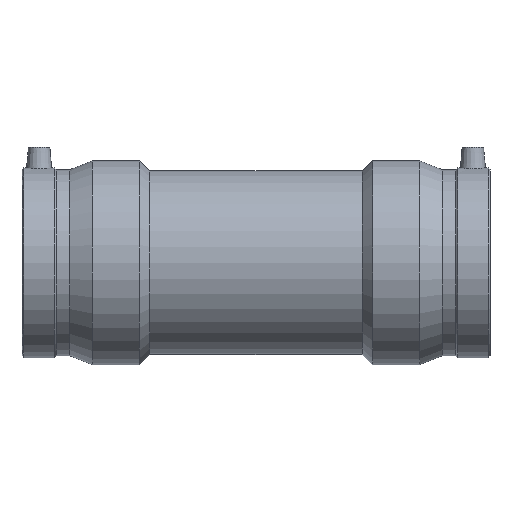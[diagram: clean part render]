
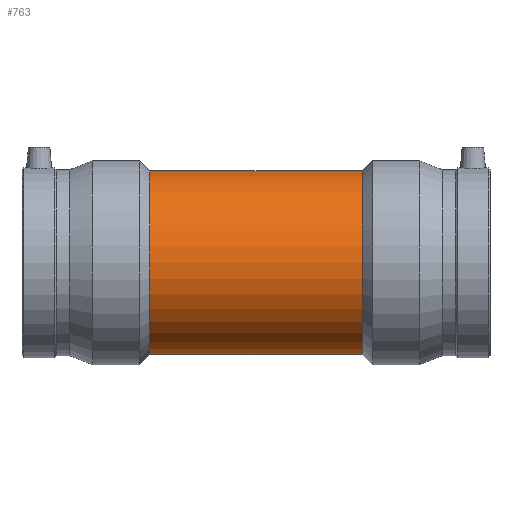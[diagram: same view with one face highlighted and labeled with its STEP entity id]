
A CAD part, top view. The second image highlights one B-rep face of the part: STEP entity #763.
In plain terms, the highlighted cylindrical face has radius 64.35 mm (diameter 128.7 mm), a full revolution.
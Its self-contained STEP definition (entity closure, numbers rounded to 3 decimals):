
#31=B_SPLINE_CURVE_WITH_KNOTS('',3,(#1275,#1276,#1277,#1278,#1279,#1280,
#1281,#1282,#1283,#1284,#1285,#1286,#1287,#1288,#1289,#1290,#1291,#1292),
 .UNSPECIFIED.,.F.,.F.,(4,2,2,2,2,2,2,2,4),(0.,0.769,1.538,
2.307,3.076,3.84,4.603,5.367,
6.13),.UNSPECIFIED.);
#32=B_SPLINE_CURVE_WITH_KNOTS('',3,(#1293,#1294,#1295,#1296,#1297,#1298,
#1299,#1300,#1301,#1302,#1303,#1304,#1305,#1306,#1307,#1308,#1309,#1310,
#1311,#1312,#1313,#1314,#1315,#1316,#1317,#1318,#1319,#1320,#1321,#1322,
#1323,#1324,#1325,#1326,#1327,#1328,#1329,#1330,#1331,#1332,#1333,#1334,
#1335,#1336,#1337,#1338,#1339,#1340,#1341,#1342),.UNSPECIFIED.,.F.,.F.,
(4,2,2,2,2,2,2,2,2,2,2,2,2,2,2,2,2,2,2,2,2,2,2,2,4),(6.13,6.894,
7.657,8.421,9.184,9.953,10.722,
11.491,12.26,13.029,13.798,14.567,
15.336,16.1,16.863,17.627,18.39,
19.154,19.917,20.681,21.444,22.213,
22.982,23.751,24.52),.UNSPECIFIED.);
#45=FACE_BOUND('',#142,.T.);
#88=FACE_OUTER_BOUND('',#141,.T.);
#141=EDGE_LOOP('',(#599,#600,#601,#602,#603,#604));
#142=EDGE_LOOP('',(#605,#606));
#183=LINE('',#1515,#216);
#216=VECTOR('',#1059,64.35);
#264=CIRCLE('',#859,64.35);
#265=CIRCLE('',#860,64.35);
#266=CIRCLE('',#862,64.35);
#267=CIRCLE('',#863,64.35);
#311=VERTEX_POINT('',#1273);
#312=VERTEX_POINT('',#1274);
#343=VERTEX_POINT('',#1505);
#344=VERTEX_POINT('',#1506);
#345=VERTEX_POINT('',#1511);
#346=VERTEX_POINT('',#1512);
#392=EDGE_CURVE('',#311,#312,#31,.T.);
#393=EDGE_CURVE('',#312,#311,#32,.T.);
#437=EDGE_CURVE('',#343,#344,#264,.T.);
#438=EDGE_CURVE('',#344,#343,#265,.T.);
#440=EDGE_CURVE('',#345,#346,#266,.T.);
#441=EDGE_CURVE('',#346,#345,#267,.T.);
#442=EDGE_CURVE('',#346,#344,#183,.T.);
#599=ORIENTED_EDGE('',*,*,#440,.F.);
#600=ORIENTED_EDGE('',*,*,#441,.F.);
#601=ORIENTED_EDGE('',*,*,#442,.T.);
#602=ORIENTED_EDGE('',*,*,#438,.T.);
#603=ORIENTED_EDGE('',*,*,#437,.T.);
#604=ORIENTED_EDGE('',*,*,#442,.F.);
#605=ORIENTED_EDGE('',*,*,#392,.T.);
#606=ORIENTED_EDGE('',*,*,#393,.T.);
#729=CYLINDRICAL_SURFACE('',#861,64.35);
#763=ADVANCED_FACE('',(#88,#45),#729,.T.);
#859=AXIS2_PLACEMENT_3D('',#1507,#1048,#1049);
#860=AXIS2_PLACEMENT_3D('',#1508,#1050,#1051);
#861=AXIS2_PLACEMENT_3D('',#1510,#1053,#1054);
#862=AXIS2_PLACEMENT_3D('',#1513,#1055,#1056);
#863=AXIS2_PLACEMENT_3D('',#1514,#1057,#1058);
#1048=DIRECTION('center_axis',(1.,0.,0.));
#1049=DIRECTION('ref_axis',(0.,0.,-1.));
#1050=DIRECTION('center_axis',(1.,0.,0.));
#1051=DIRECTION('ref_axis',(0.,0.,-1.));
#1053=DIRECTION('center_axis',(1.,0.,0.));
#1054=DIRECTION('ref_axis',(0.,1.,0.));
#1055=DIRECTION('center_axis',(1.,0.,0.));
#1056=DIRECTION('ref_axis',(0.,0.,-1.));
#1057=DIRECTION('center_axis',(1.,0.,0.));
#1058=DIRECTION('ref_axis',(0.,0.,-1.));
#1059=DIRECTION('',(-1.,0.,0.));
#1273=CARTESIAN_POINT('',(0.,-39.375,-50.897));
#1274=CARTESIAN_POINT('',(39.375,0.,-64.35));
#1275=CARTESIAN_POINT('Ctrl Pts',(0.,-39.375,-50.897));
#1276=CARTESIAN_POINT('Ctrl Pts',(2.563,-39.375,-50.897));
#1277=CARTESIAN_POINT('Ctrl Pts',(5.179,-39.121,-51.097));
#1278=CARTESIAN_POINT('Ctrl Pts',(10.325,-38.088,-51.872));
#1279=CARTESIAN_POINT('Ctrl Pts',(12.855,-37.309,-52.445));
#1280=CARTESIAN_POINT('Ctrl Pts',(17.671,-35.284,-53.828));
#1281=CARTESIAN_POINT('Ctrl Pts',(19.962,-34.036,-54.637));
#1282=CARTESIAN_POINT('Ctrl Pts',(24.189,-31.173,-56.32));
#1283=CARTESIAN_POINT('Ctrl Pts',(26.126,-29.559,-57.191));
#1284=CARTESIAN_POINT('Ctrl Pts',(29.547,-26.138,-58.833));
#1285=CARTESIAN_POINT('Ctrl Pts',(31.159,-24.208,-59.665));
#1286=CARTESIAN_POINT('Ctrl Pts',(34.026,-19.979,-61.211));
#1287=CARTESIAN_POINT('Ctrl Pts',(35.28,-17.68,-61.924));
#1288=CARTESIAN_POINT('Ctrl Pts',(37.313,-12.846,-63.104));
#1289=CARTESIAN_POINT('Ctrl Pts',(38.093,-10.306,-63.572));
#1290=CARTESIAN_POINT('Ctrl Pts',(39.124,-5.156,-64.196));
#1291=CARTESIAN_POINT('Ctrl Pts',(39.375,-2.545,-64.35));
#1292=CARTESIAN_POINT('Ctrl Pts',(39.375,0.,-64.35));
#1293=CARTESIAN_POINT('Ctrl Pts',(39.375,0.,-64.35));
#1294=CARTESIAN_POINT('Ctrl Pts',(39.375,2.545,-64.35));
#1295=CARTESIAN_POINT('Ctrl Pts',(39.124,5.156,-64.196));
#1296=CARTESIAN_POINT('Ctrl Pts',(38.093,10.306,-63.572));
#1297=CARTESIAN_POINT('Ctrl Pts',(37.313,12.846,-63.104));
#1298=CARTESIAN_POINT('Ctrl Pts',(35.28,17.68,-61.924));
#1299=CARTESIAN_POINT('Ctrl Pts',(34.026,19.979,-61.211));
#1300=CARTESIAN_POINT('Ctrl Pts',(31.159,24.208,-59.665));
#1301=CARTESIAN_POINT('Ctrl Pts',(29.547,26.138,-58.833));
#1302=CARTESIAN_POINT('Ctrl Pts',(26.126,29.559,-57.191));
#1303=CARTESIAN_POINT('Ctrl Pts',(24.189,31.173,-56.32));
#1304=CARTESIAN_POINT('Ctrl Pts',(19.962,34.036,-54.637));
#1305=CARTESIAN_POINT('Ctrl Pts',(17.671,35.284,-53.828));
#1306=CARTESIAN_POINT('Ctrl Pts',(12.855,37.309,-52.445));
#1307=CARTESIAN_POINT('Ctrl Pts',(10.325,38.088,-51.872));
#1308=CARTESIAN_POINT('Ctrl Pts',(5.179,39.121,-51.097));
#1309=CARTESIAN_POINT('Ctrl Pts',(2.563,39.375,-50.897));
#1310=CARTESIAN_POINT('Ctrl Pts',(-2.563,39.375,-50.897));
#1311=CARTESIAN_POINT('Ctrl Pts',(-5.179,39.121,-51.097));
#1312=CARTESIAN_POINT('Ctrl Pts',(-10.325,38.088,-51.872));
#1313=CARTESIAN_POINT('Ctrl Pts',(-12.855,37.309,-52.445));
#1314=CARTESIAN_POINT('Ctrl Pts',(-17.671,35.284,-53.828));
#1315=CARTESIAN_POINT('Ctrl Pts',(-19.962,34.036,-54.637));
#1316=CARTESIAN_POINT('Ctrl Pts',(-24.189,31.173,-56.32));
#1317=CARTESIAN_POINT('Ctrl Pts',(-26.126,29.559,-57.191));
#1318=CARTESIAN_POINT('Ctrl Pts',(-29.547,26.138,-58.833));
#1319=CARTESIAN_POINT('Ctrl Pts',(-31.159,24.208,-59.665));
#1320=CARTESIAN_POINT('Ctrl Pts',(-34.026,19.979,-61.211));
#1321=CARTESIAN_POINT('Ctrl Pts',(-35.28,17.68,-61.924));
#1322=CARTESIAN_POINT('Ctrl Pts',(-37.313,12.846,-63.104));
#1323=CARTESIAN_POINT('Ctrl Pts',(-38.093,10.306,-63.572));
#1324=CARTESIAN_POINT('Ctrl Pts',(-39.124,5.156,-64.196));
#1325=CARTESIAN_POINT('Ctrl Pts',(-39.375,2.545,-64.35));
#1326=CARTESIAN_POINT('Ctrl Pts',(-39.375,-2.545,-64.35));
#1327=CARTESIAN_POINT('Ctrl Pts',(-39.124,-5.156,-64.196));
#1328=CARTESIAN_POINT('Ctrl Pts',(-38.093,-10.306,-63.572));
#1329=CARTESIAN_POINT('Ctrl Pts',(-37.313,-12.846,-63.104));
#1330=CARTESIAN_POINT('Ctrl Pts',(-35.28,-17.68,-61.924));
#1331=CARTESIAN_POINT('Ctrl Pts',(-34.026,-19.979,-61.211));
#1332=CARTESIAN_POINT('Ctrl Pts',(-31.159,-24.208,-59.665));
#1333=CARTESIAN_POINT('Ctrl Pts',(-29.547,-26.138,-58.833));
#1334=CARTESIAN_POINT('Ctrl Pts',(-26.126,-29.559,-57.191));
#1335=CARTESIAN_POINT('Ctrl Pts',(-24.189,-31.173,-56.32));
#1336=CARTESIAN_POINT('Ctrl Pts',(-19.962,-34.036,-54.637));
#1337=CARTESIAN_POINT('Ctrl Pts',(-17.671,-35.284,-53.828));
#1338=CARTESIAN_POINT('Ctrl Pts',(-12.855,-37.309,-52.445));
#1339=CARTESIAN_POINT('Ctrl Pts',(-10.325,-38.088,-51.872));
#1340=CARTESIAN_POINT('Ctrl Pts',(-5.179,-39.121,-51.097));
#1341=CARTESIAN_POINT('Ctrl Pts',(-2.563,-39.375,-50.897));
#1342=CARTESIAN_POINT('Ctrl Pts',(0.,-39.375,-50.897));
#1505=CARTESIAN_POINT('',(-74.62,64.35,0.));
#1506=CARTESIAN_POINT('',(-74.62,-64.35,0.));
#1507=CARTESIAN_POINT('Origin',(-74.62,0.,0.));
#1508=CARTESIAN_POINT('Origin',(-74.62,0.,0.));
#1510=CARTESIAN_POINT('Origin',(0.,0.,0.));
#1511=CARTESIAN_POINT('',(74.62,64.35,0.));
#1512=CARTESIAN_POINT('',(74.62,-64.35,0.));
#1513=CARTESIAN_POINT('Origin',(74.62,0.,0.));
#1514=CARTESIAN_POINT('Origin',(74.62,0.,0.));
#1515=CARTESIAN_POINT('',(0.,-64.35,0.));
